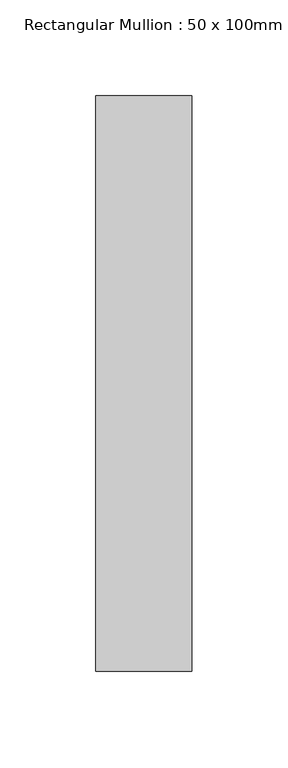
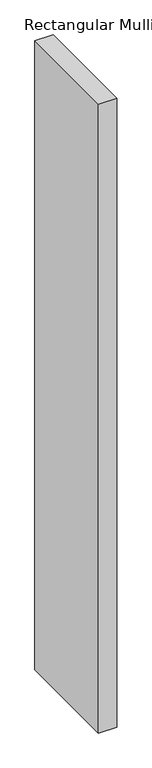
"""IFC4 building model written with IfcOpenShell, lengths in millimetres: member geometry, Rectangular Mullion : 50 x 100mm."""

from ifc_helpers import new_model, si_unit, frame, origin, place, context, project, spatial, polyline, outline, extrude, source, transform, mapped, element, save


def rectangular_mullion_50_x_100mm_e386ba94(model_context):
    return source(origin(), model_context, "Body", "SweptSolid", [
        extrude(outline(polyline([(0.0, 175.0), (0.0, -125.0), (-50.0, -125.0), (-50.0, 175.0), (0.0, 175.0)])), frame((0.0, 0.0, -1812.8880144), z_axis=(0.0, 0.0, 1.0), x_axis=(1.0, 0.0, 0.0)), (0.0, 0.0, 1.0), 1812.8880144),
    ])


if __name__ == "__main__":
    model = new_model("IFC4")
    model_context = context("Model", 3, world=origin())
    ifc_project = project(units=[si_unit("LENGTHUNIT", "METRE", prefix="MILLI")], contexts=[model_context])
    site = spatial("IfcSite", under=ifc_project)
    building = spatial("IfcBuilding", under=site)
    placement = place(None, origin())
    rectangular_mullion_50_x_100mm_shape = rectangular_mullion_50_x_100mm_e386ba94(model_context)
    element("IfcMember", 1, ObjectType="Rectangular Mullion : 50 x 100mm", at=placement, inside=building, context=model_context, shape_type="MappedRepresentation", body=[
        mapped(rectangular_mullion_50_x_100mm_shape, transform((0.0, 0.0, 0.0), x_axis=(1.0, 0.0, 0.0), y_axis=(0.0, 1.0, 0.0), z_axis=(0.0, 0.0, 1.0))),
    ])
    save(model, "model.ifc")
